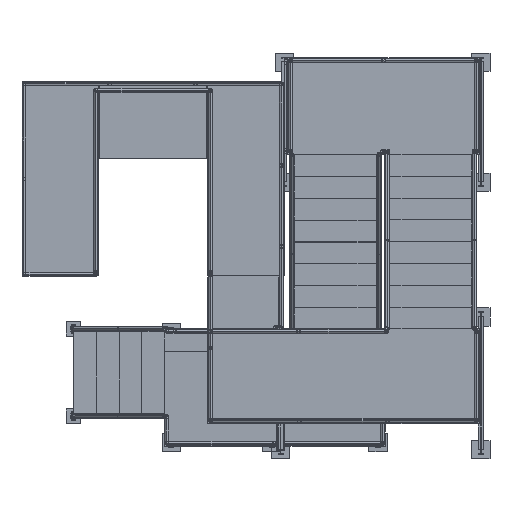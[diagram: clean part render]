
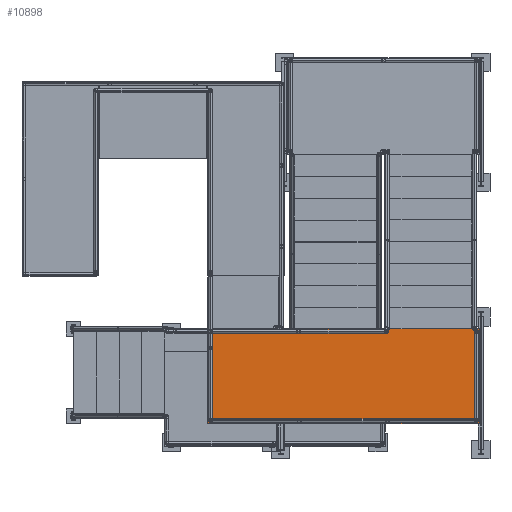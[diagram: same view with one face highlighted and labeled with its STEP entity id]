
A CAD part, top view. The second image highlights one B-rep face of the part: STEP entity #10898.
In plain terms, the highlighted planar face has unit normal (0, 0, 1).
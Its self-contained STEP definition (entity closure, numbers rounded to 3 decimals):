
#473 = ORIENTED_EDGE ( 'NONE', *, *, #28062, .F. ) ;
#815 = CARTESIAN_POINT ( 'NONE',  ( 8680., -2270., 4800. ) ) ;
#1611 = DIRECTION ( 'NONE',  ( 1., 0., 0. ) ) ;
#3251 = AXIS2_PLACEMENT_3D ( 'NONE', #10134, #37208, #58501 ) ;
#4376 = VERTEX_POINT ( 'NONE', #815 ) ;
#4493 = DIRECTION ( 'NONE',  ( 0., -1., 0. ) ) ;
#4849 = LINE ( 'NONE', #20755, #32407 ) ;
#6674 = CARTESIAN_POINT ( 'NONE',  ( 7190., -2270., 4800. ) ) ;
#7940 = CARTESIAN_POINT ( 'NONE',  ( 5700., -3310., 4800. ) ) ;
#10134 = CARTESIAN_POINT ( 'NONE',  ( 7190., -2790., 4800. ) ) ;
#10898 = ADVANCED_FACE ( 'NONE', ( #59560 ), #64288, .T. ) ;
#11029 = CARTESIAN_POINT ( 'NONE',  ( 8680., -3310., 4800. ) ) ;
#14010 = EDGE_CURVE ( 'NONE', #4376, #65688, #4849, .T. ) ;
#17276 = CARTESIAN_POINT ( 'NONE',  ( 5700., -2790., 4800. ) ) ;
#19640 = DIRECTION ( 'NONE',  ( -1., 0., 0. ) ) ;
#20755 = CARTESIAN_POINT ( 'NONE',  ( 8680., -2790., 4800. ) ) ;
#26681 = VERTEX_POINT ( 'NONE', #7940 ) ;
#27253 = ORIENTED_EDGE ( 'NONE', *, *, #14010, .F. ) ;
#27909 = VECTOR ( 'NONE', #19640, 1000. ) ;
#28062 = EDGE_CURVE ( 'NONE', #26681, #68282, #39644, .T. ) ;
#29510 = DIRECTION ( 'NONE',  ( 0., 1., 0. ) ) ;
#32319 = EDGE_CURVE ( 'NONE', #68282, #4376, #34103, .T. ) ;
#32407 = VECTOR ( 'NONE', #4493, 1000. ) ;
#34103 = LINE ( 'NONE', #6674, #39028 ) ;
#37208 = DIRECTION ( 'NONE',  ( 0., 0., 1. ) ) ;
#37440 = EDGE_CURVE ( 'NONE', #65688, #26681, #62948, .T. ) ;
#39028 = VECTOR ( 'NONE', #1611, 1000. ) ;
#39644 = LINE ( 'NONE', #17276, #47743 ) ;
#47743 = VECTOR ( 'NONE', #29510, 1000. ) ;
#52074 = CARTESIAN_POINT ( 'NONE',  ( 7190., -3310., 4800. ) ) ;
#53827 = ORIENTED_EDGE ( 'NONE', *, *, #32319, .F. ) ;
#56544 = ORIENTED_EDGE ( 'NONE', *, *, #37440, .F. ) ;
#58501 = DIRECTION ( 'NONE',  ( 1., 0., 0. ) ) ;
#59560 = FACE_OUTER_BOUND ( 'NONE', #63756, .T. ) ;
#62948 = LINE ( 'NONE', #52074, #27909 ) ;
#63756 = EDGE_LOOP ( 'NONE', ( #56544, #27253, #53827, #473 ) ) ;
#64288 = PLANE ( 'NONE',  #3251 ) ;
#65688 = VERTEX_POINT ( 'NONE', #11029 ) ;
#65707 = CARTESIAN_POINT ( 'NONE',  ( 5700., -2270., 4800. ) ) ;
#68282 = VERTEX_POINT ( 'NONE', #65707 ) ;
